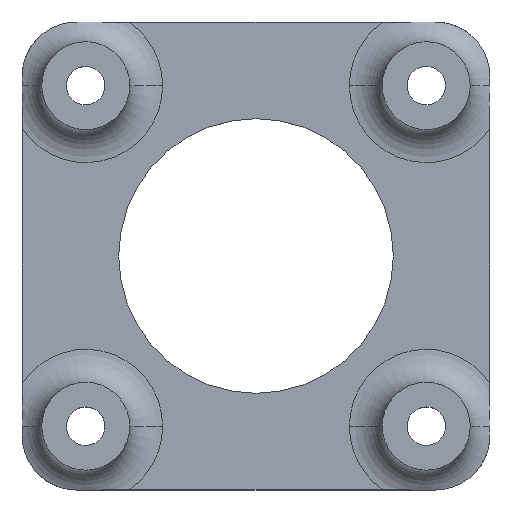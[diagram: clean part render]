
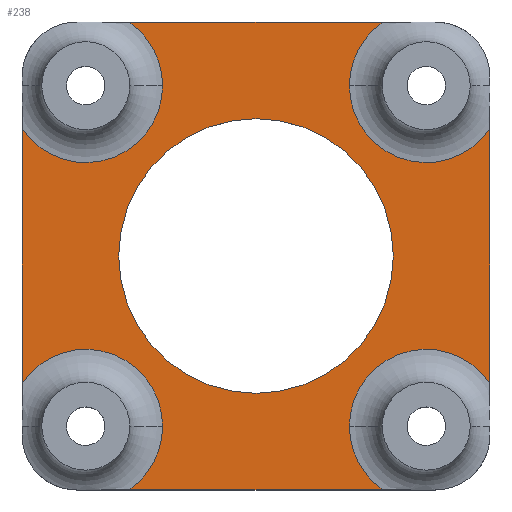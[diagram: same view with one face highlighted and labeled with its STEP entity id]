
A CAD part, top view. The second image highlights one B-rep face of the part: STEP entity #238.
In plain terms, the highlighted planar face has unit normal (0, 0, 1).
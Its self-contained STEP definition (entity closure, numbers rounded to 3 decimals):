
#120=AXIS2_PLACEMENT_3D('Plane Axis2P3D',#117,#118,#119) ;
#133=AXIS2_PLACEMENT_3D('Circle Axis2P3D',#131,#132,$) ;
#140=AXIS2_PLACEMENT_3D('Circle Axis2P3D',#138,#139,$) ;
#154=AXIS2_PLACEMENT_3D('Circle Axis2P3D',#152,#153,$) ;
#161=AXIS2_PLACEMENT_3D('Circle Axis2P3D',#159,#160,$) ;
#175=AXIS2_PLACEMENT_3D('Circle Axis2P3D',#173,#174,$) ;
#182=AXIS2_PLACEMENT_3D('Circle Axis2P3D',#180,#181,$) ;
#196=AXIS2_PLACEMENT_3D('Circle Axis2P3D',#194,#195,$) ;
#203=AXIS2_PLACEMENT_3D('Circle Axis2P3D',#201,#202,$) ;
#222=AXIS2_PLACEMENT_3D('Circle Axis2P3D',#220,#221,$) ;
#231=AXIS2_PLACEMENT_3D('Circle Axis2P3D',#229,#230,$) ;
#117=CARTESIAN_POINT('Axis2P3D Location',(0.,0.,2.)) ;
#122=CARTESIAN_POINT('Line Origine',(0.,-21.3,2.)) ;
#126=CARTESIAN_POINT('Vertex',(-11.581,-21.3,2.)) ;
#128=CARTESIAN_POINT('Vertex',(11.581,-21.3,2.)) ;
#131=CARTESIAN_POINT('Axis2P3D Location',(15.5,-15.5,2.)) ;
#135=CARTESIAN_POINT('Vertex',(8.5,-15.5,2.)) ;
#138=CARTESIAN_POINT('Axis2P3D Location',(15.5,-15.5,2.)) ;
#142=CARTESIAN_POINT('Vertex',(21.3,-11.581,2.)) ;
#145=CARTESIAN_POINT('Line Origine',(21.3,0.,2.)) ;
#149=CARTESIAN_POINT('Vertex',(21.3,11.581,2.)) ;
#152=CARTESIAN_POINT('Axis2P3D Location',(15.5,15.5,2.)) ;
#156=CARTESIAN_POINT('Vertex',(8.5,15.5,2.)) ;
#159=CARTESIAN_POINT('Axis2P3D Location',(15.5,15.5,2.)) ;
#163=CARTESIAN_POINT('Vertex',(11.581,21.3,2.)) ;
#166=CARTESIAN_POINT('Line Origine',(0.,21.3,2.)) ;
#170=CARTESIAN_POINT('Vertex',(-11.581,21.3,2.)) ;
#173=CARTESIAN_POINT('Axis2P3D Location',(-15.5,15.5,2.)) ;
#177=CARTESIAN_POINT('Vertex',(-8.5,15.5,2.)) ;
#180=CARTESIAN_POINT('Axis2P3D Location',(-15.5,15.5,2.)) ;
#184=CARTESIAN_POINT('Vertex',(-21.3,11.581,2.)) ;
#187=CARTESIAN_POINT('Line Origine',(-21.3,0.,2.)) ;
#191=CARTESIAN_POINT('Vertex',(-21.3,-11.581,2.)) ;
#194=CARTESIAN_POINT('Axis2P3D Location',(-15.5,-15.5,2.)) ;
#198=CARTESIAN_POINT('Vertex',(-8.5,-15.5,2.)) ;
#201=CARTESIAN_POINT('Axis2P3D Location',(-15.5,-15.5,2.)) ;
#220=CARTESIAN_POINT('Axis2P3D Location',(0.,0.,2.)) ;
#224=CARTESIAN_POINT('Vertex',(-12.5,0.,2.)) ;
#226=CARTESIAN_POINT('Vertex',(12.5,0.,2.)) ;
#229=CARTESIAN_POINT('Axis2P3D Location',(0.,0.,2.)) ;
#118=DIRECTION('Axis2P3D Direction',(0.,0.,1.)) ;
#119=DIRECTION('Axis2P3D XDirection',(1.,0.,0.)) ;
#123=DIRECTION('Vector Direction',(-1.,0.,0.)) ;
#132=DIRECTION('Axis2P3D Direction',(0.,0.,1.)) ;
#139=DIRECTION('Axis2P3D Direction',(0.,0.,1.)) ;
#146=DIRECTION('Vector Direction',(0.,-1.,0.)) ;
#153=DIRECTION('Axis2P3D Direction',(0.,0.,1.)) ;
#160=DIRECTION('Axis2P3D Direction',(0.,0.,1.)) ;
#167=DIRECTION('Vector Direction',(1.,0.,0.)) ;
#174=DIRECTION('Axis2P3D Direction',(0.,0.,1.)) ;
#181=DIRECTION('Axis2P3D Direction',(0.,0.,1.)) ;
#188=DIRECTION('Vector Direction',(0.,1.,0.)) ;
#195=DIRECTION('Axis2P3D Direction',(0.,0.,1.)) ;
#202=DIRECTION('Axis2P3D Direction',(0.,0.,1.)) ;
#221=DIRECTION('Axis2P3D Direction',(0.,0.,1.)) ;
#230=DIRECTION('Axis2P3D Direction',(0.,0.,1.)) ;
#124=VECTOR('Line Direction',#123,1.) ;
#147=VECTOR('Line Direction',#146,1.) ;
#168=VECTOR('Line Direction',#167,1.) ;
#189=VECTOR('Line Direction',#188,1.) ;
#207=ORIENTED_EDGE('',*,*,#130,.T.) ;
#208=ORIENTED_EDGE('',*,*,#137,.T.) ;
#209=ORIENTED_EDGE('',*,*,#144,.T.) ;
#210=ORIENTED_EDGE('',*,*,#151,.T.) ;
#211=ORIENTED_EDGE('',*,*,#158,.T.) ;
#212=ORIENTED_EDGE('',*,*,#165,.T.) ;
#213=ORIENTED_EDGE('',*,*,#172,.T.) ;
#214=ORIENTED_EDGE('',*,*,#179,.T.) ;
#215=ORIENTED_EDGE('',*,*,#186,.T.) ;
#216=ORIENTED_EDGE('',*,*,#193,.T.) ;
#217=ORIENTED_EDGE('',*,*,#200,.T.) ;
#218=ORIENTED_EDGE('',*,*,#205,.T.) ;
#235=ORIENTED_EDGE('',*,*,#228,.F.) ;
#236=ORIENTED_EDGE('',*,*,#233,.F.) ;
#237=FACE_BOUND('',#234,.T.) ;
#238=ADVANCED_FACE('Dadi',(#219,#237),#121,.T.) ;
#134=CIRCLE('generated circle',#133,7.) ;
#141=CIRCLE('generated circle',#140,7.) ;
#155=CIRCLE('generated circle',#154,7.) ;
#162=CIRCLE('generated circle',#161,7.) ;
#176=CIRCLE('generated circle',#175,7.) ;
#183=CIRCLE('generated circle',#182,7.) ;
#197=CIRCLE('generated circle',#196,7.) ;
#204=CIRCLE('generated circle',#203,7.) ;
#223=CIRCLE('generated circle',#222,12.5) ;
#232=CIRCLE('generated circle',#231,12.5) ;
#130=EDGE_CURVE('',#127,#129,#125,.F.) ;
#137=EDGE_CURVE('',#129,#136,#134,.F.) ;
#144=EDGE_CURVE('',#136,#143,#141,.F.) ;
#151=EDGE_CURVE('',#143,#150,#148,.F.) ;
#158=EDGE_CURVE('',#150,#157,#155,.F.) ;
#165=EDGE_CURVE('',#157,#164,#162,.F.) ;
#172=EDGE_CURVE('',#164,#171,#169,.F.) ;
#179=EDGE_CURVE('',#171,#178,#176,.F.) ;
#186=EDGE_CURVE('',#178,#185,#183,.F.) ;
#193=EDGE_CURVE('',#185,#192,#190,.F.) ;
#200=EDGE_CURVE('',#192,#199,#197,.F.) ;
#205=EDGE_CURVE('',#199,#127,#204,.F.) ;
#228=EDGE_CURVE('',#225,#227,#223,.T.) ;
#233=EDGE_CURVE('',#227,#225,#232,.T.) ;
#206=EDGE_LOOP('',(#207,#208,#209,#210,#211,#212,#213,#214,#215,#216,#217,#218)) ;
#234=EDGE_LOOP('',(#235,#236)) ;
#219=FACE_OUTER_BOUND('',#206,.T.) ;
#125=LINE('Line',#122,#124) ;
#148=LINE('Line',#145,#147) ;
#169=LINE('Line',#166,#168) ;
#190=LINE('Line',#187,#189) ;
#121=PLANE('',#120) ;
#127=VERTEX_POINT('',#126) ;
#129=VERTEX_POINT('',#128) ;
#136=VERTEX_POINT('',#135) ;
#143=VERTEX_POINT('',#142) ;
#150=VERTEX_POINT('',#149) ;
#157=VERTEX_POINT('',#156) ;
#164=VERTEX_POINT('',#163) ;
#171=VERTEX_POINT('',#170) ;
#178=VERTEX_POINT('',#177) ;
#185=VERTEX_POINT('',#184) ;
#192=VERTEX_POINT('',#191) ;
#199=VERTEX_POINT('',#198) ;
#225=VERTEX_POINT('',#224) ;
#227=VERTEX_POINT('',#226) ;
